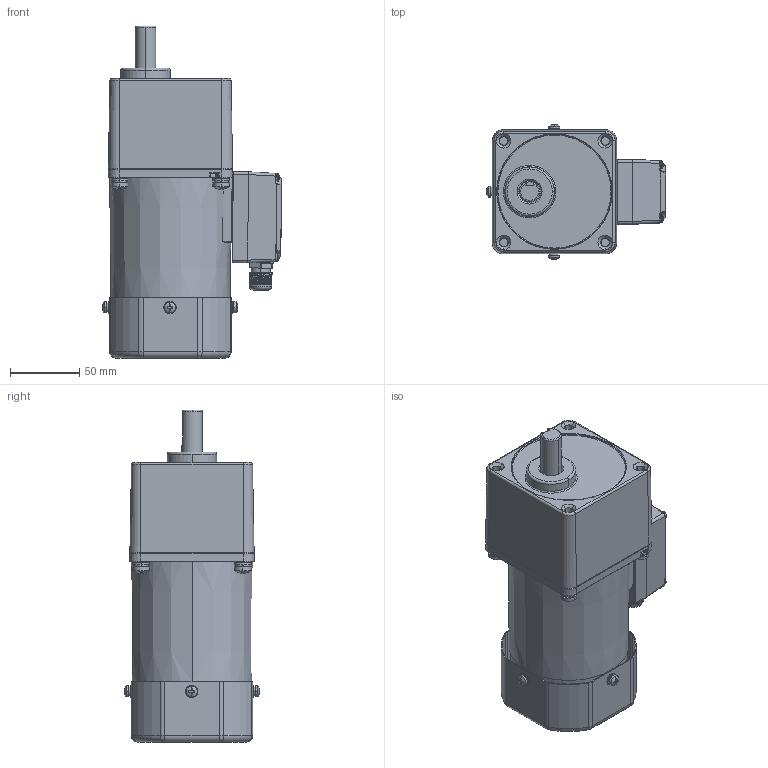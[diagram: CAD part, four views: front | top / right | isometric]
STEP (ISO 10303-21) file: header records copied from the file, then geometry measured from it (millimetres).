
FILE_DESCRIPTION (( 'STEP AP203' ), '1' );
FILE_NAME ('5IK60RGU-CFT(5GU3KB-200KB).STEP', '2023-08-08T05:53:28', ( 'Windows User' ), ( 'P R C' ), 'SwSTEP 2.0', 'SolidWorks 2019', '' );
FILE_SCHEMA (( 'CONFIG_CONTROL_DESIGN' ));
Length unit declared in the file: millimetre
Products named in the file (18): 葩璃 (3) ^_____5IK60RGU-CFT(5GU3KB-200KB)(2)_5IK60RGU-CFT(5GU3KB-200KB); ^_____5IK60RGU-CFT(5GU3KB-200KB)(2)_5IK60RGU-CFT(5GU3KB-200KB); 葩璃 (3) ^_70TSJXHG____5IK60RGU-CFT(5GU3KB-200KB)(2)_5IK60RGU-CFT(5GU3KB-200KB); 5GU3KB-200KB^5IK60RGU-CFT(5GU3KB-200KB)(2)_5IK60RGU-CFT(5GU3KB-200KB); ^___5IK60RGU-CFT(5GU3KB-200KB)(2)_5IK60RGU-CFT(5GU3KB-200KB); ^__5IK60RGU-CFT(5GU3KB-200KB)(2)_5IK60RGU-CFT(5GU3KB-200KB); 葩璃 (2) ^_70TSJXHG____5IK60RGU-CFT(5GU3KB-200KB)(2)_5IK60RGU-CFT(5GU3KB-200KB); ^_70TSJXHG____5IK60RGU-CFT(5GU3KB-200KB)(2)_5IK60RGU-CFT(5GU3KB-200KB); 葩璃 (2) ^_____5IK60RGU-CFT(5GU3KB-200KB)(2)_5IK60RGU-CFT(5GU3KB-200KB); ^_5IK60RGU-CFT(5GU3KB-200KB)(2)_5IK60RGU-CFT(5GU3KB-200KB); ^5IK60RGU-CFT(5GU3KB-200KB)(2)_5IK60RGU-CFT(5GU3KB-200KB); 5IK60RGU-CFT(5GU3KB-200KB)(2)^5IK60RGU-CFT(5GU3KB-200KB); ^70TSJXHG____5IK60RGU-CFT(5GU3KB-200KB)(2)_5IK60RGU-CFT(5GU3KB-200KB); ^____5IK60RGU-CFT(5GU3KB-200KB)(2)_5IK60RGU-CFT(5GU3KB-200KB); 70TSJXHG^___5IK60RGU-CFT(5GU3KB-200KB)(2)_5IK60RGU-CFT(5GU3KB-200KB); 5IK60RGU-CFT(5GU3KB-200KB)
Assembly tree (20 placements, depth 8):
  5IK60RGU-CFT(5GU3KB-200KB)
    5IK60RGU-CFT(5GU3KB-200KB)(2)^5IK60RGU-CFT(5GU3KB-200KB)
      ^5IK60RGU-CFT(5GU3KB-200KB)(2)_5IK60RGU-CFT(5GU3KB-200KB)
        ^_5IK60RGU-CFT(5GU3KB-200KB)(2)_5IK60RGU-CFT(5GU3KB-200KB)
          ^__5IK60RGU-CFT(5GU3KB-200KB)(2)_5IK60RGU-CFT(5GU3KB-200KB)
            70TSJXHG^___5IK60RGU-CFT(5GU3KB-200KB)(2)_5IK60RGU-CFT(5GU3KB-200KB)
              ^70TSJXHG____5IK60RGU-CFT(5GU3KB-200KB)(2)_5IK60RGU-CFT(5GU3KB-200KB)
                ^_70TSJXHG____5IK60RGU-CFT(5GU3KB-200KB)(2)_5IK60RGU-CFT(5GU3KB-200KB)
                葩璃 (2) ^_70TSJXHG____5IK60RGU-CFT(5GU3KB-200KB)(2)_5IK60RGU-CFT(5GU3KB-200KB)
                葩璃 (3) ^_70TSJXHG____5IK60RGU-CFT(5GU3KB-200KB)(2)_5IK60RGU-CFT(5GU3KB-200KB)  x4
            ^___5IK60RGU-CFT(5GU3KB-200KB)(2)_5IK60RGU-CFT(5GU3KB-200KB)
              ^____5IK60RGU-CFT(5GU3KB-200KB)(2)_5IK60RGU-CFT(5GU3KB-200KB)
                ^_____5IK60RGU-CFT(5GU3KB-200KB)(2)_5IK60RGU-CFT(5GU3KB-200KB)
                葩璃 (2) ^_____5IK60RGU-CFT(5GU3KB-200KB)(2)_5IK60RGU-CFT(5GU3KB-200KB)
                葩璃 (3) ^_____5IK60RGU-CFT(5GU3KB-200KB)(2)_5IK60RGU-CFT(5GU3KB-200KB)
            ^___5IK60RGU-CFT(5GU3KB-200KB)(2)_5IK60RGU-CFT(5GU3KB-200KB)
          ^__5IK60RGU-CFT(5GU3KB-200KB)(2)_5IK60RGU-CFT(5GU3KB-200KB)
      5GU3KB-200KB^5IK60RGU-CFT(5GU3KB-200KB)(2)_5IK60RGU-CFT(5GU3KB-200KB)
Bounding box: 129.69 x 98.11 x 240.5 mm (x, y, z)
Volume: 1273496.1 mm3; surface area: 170172.8 mm2
Topology: 39 solids, 39 shells, 2029 faces, 5237 edges, 3303 vertices
Faces by surface type: cylinder 768, plane 525, cone 512, torus 114, sphere 76, bspline 34
Entity records: 57956 total; most frequent: CARTESIAN_POINT 15120, DIRECTION 9156, ORIENTED_EDGE 8402, EDGE_CURVE 4201, AXIS2_PLACEMENT_3D 3774, VERTEX_POINT 2687, CIRCLE 2135, EDGE_LOOP 1772
